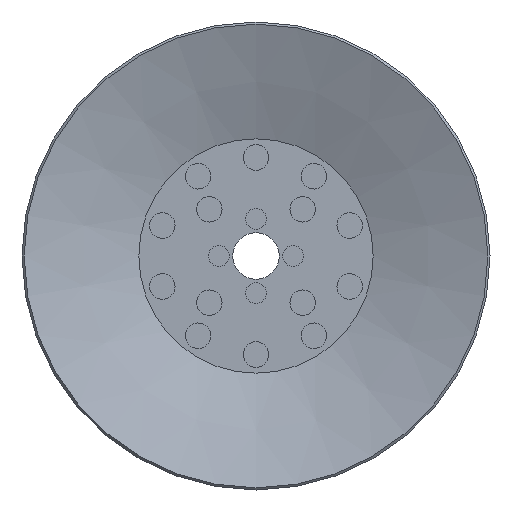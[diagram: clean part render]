
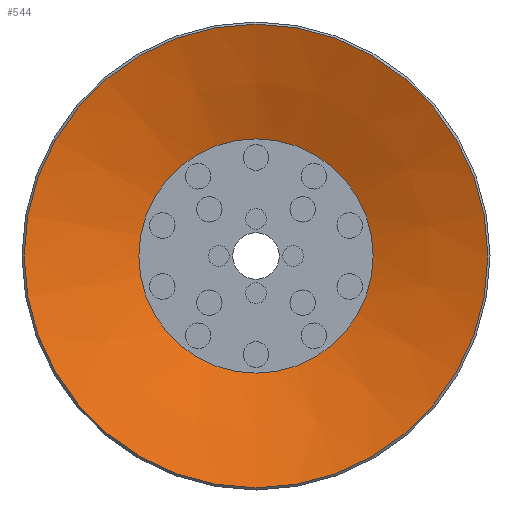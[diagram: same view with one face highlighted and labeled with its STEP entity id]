
A CAD part, front view. The second image highlights one B-rep face of the part: STEP entity #544.
In plain terms, the highlighted conical face has half-angle 70 degrees and reference radius 10 mm.
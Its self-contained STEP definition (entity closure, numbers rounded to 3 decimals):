
#544=ADVANCED_FACE('',(#822,#823),#824,.F.);
#822=FACE_BOUND('',#1209,.T.);
#823=FACE_OUTER_BOUND('',#1210,.T.);
#824=CONICAL_SURFACE('',#1211,10.0,1.222);
#1209=EDGE_LOOP('',(#1951));
#1210=EDGE_LOOP('',(#1952));
#1211=AXIS2_PLACEMENT_3D('',#1953,#1954,#1955);
#1951=ORIENTED_EDGE('',*,*,#2381,.T.);
#1952=ORIENTED_EDGE('',*,*,#2382,.F.);
#1953=CARTESIAN_POINT('',(0.0,0.,0.));
#1954=DIRECTION('',(0.0,0.,-1.0));
#1955=DIRECTION('',(0.0,1.0,0.));
#2381=EDGE_CURVE('',#2700,#2700,#2701,.T.);
#2382=EDGE_CURVE('',#2702,#2702,#2703,.T.);
#2700=VERTEX_POINT('',#3402);
#2701=CIRCLE('',#3403,5.055);
#2702=VERTEX_POINT('',#3404);
#2703=CIRCLE('',#3405,10.0);
#3402=CARTESIAN_POINT('',(0.0,-5.055,1.8));
#3403=AXIS2_PLACEMENT_3D('',#3753,#3754,#3755);
#3404=CARTESIAN_POINT('',(0.0,-10.0,0.));
#3405=AXIS2_PLACEMENT_3D('',#3756,#3757,#3758);
#3753=CARTESIAN_POINT('',(0.0,0.,1.8));
#3754=DIRECTION('',(0.0,0.,1.0));
#3755=DIRECTION('',(0.0,-1.0,0.));
#3756=CARTESIAN_POINT('',(0.0,0.,0.));
#3757=DIRECTION('',(0.0,0.,1.0));
#3758=DIRECTION('',(0.0,-1.0,0.));
